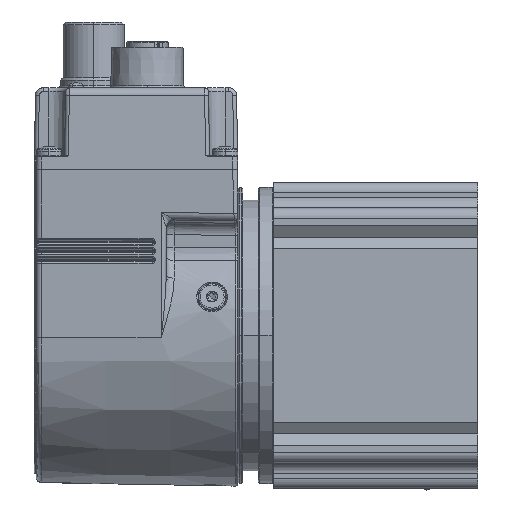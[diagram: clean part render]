
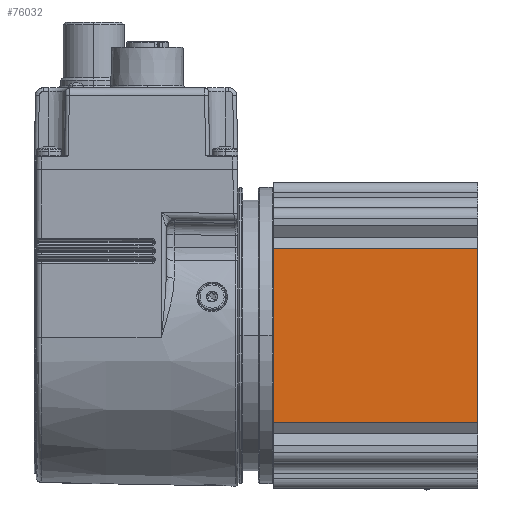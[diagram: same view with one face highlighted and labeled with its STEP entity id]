
A CAD part, front view. The second image highlights one B-rep face of the part: STEP entity #76032.
In plain terms, the highlighted planar face has unit normal (0, -1, 0).
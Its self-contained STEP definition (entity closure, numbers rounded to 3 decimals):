
#72586=DIRECTION('',(1.,0.,0.));
#72587=VECTOR('',#72586,34.172);
#72588=CARTESIAN_POINT('',(-17.086,-30.,0.));
#72589=LINE('',#72588,#72587);
#73632=DIRECTION('',(1.,0.,0.));
#73633=VECTOR('',#73632,34.172);
#73634=CARTESIAN_POINT('',(-17.086,-30.,40.));
#73635=LINE('',#73634,#73633);
#73994=DIRECTION('',(0.,0.,1.));
#73995=VECTOR('',#73994,40.);
#73996=CARTESIAN_POINT('',(-17.086,-30.,0.));
#73997=LINE('',#73996,#73995);
#74001=DIRECTION('',(0.,0.,1.));
#74002=VECTOR('',#74001,40.);
#74003=CARTESIAN_POINT('',(17.086,-30.,0.));
#74004=LINE('',#74003,#74002);
#74852=CARTESIAN_POINT('',(-17.086,-30.,0.));
#74853=VERTEX_POINT('',#74852);
#74854=CARTESIAN_POINT('',(17.086,-30.,0.));
#74855=VERTEX_POINT('',#74854);
#74984=CARTESIAN_POINT('',(-17.086,-30.,40.));
#74985=VERTEX_POINT('',#74984);
#74986=CARTESIAN_POINT('',(17.086,-30.,40.));
#74987=VERTEX_POINT('',#74986);
#76020=CARTESIAN_POINT('',(-17.086,-30.,0.));
#76021=DIRECTION('',(0.,-1.,0.));
#76022=DIRECTION('',(1.,0.,0.));
#76023=AXIS2_PLACEMENT_3D('',#76020,#76021,#76022);
#76024=PLANE('',#76023);
#76025=ORIENTED_EDGE('',*,*,#75268,.F.);
#76026=ORIENTED_EDGE('',*,*,#76015,.T.);
#76027=ORIENTED_EDGE('',*,*,#75651,.T.);
#76029=ORIENTED_EDGE('',*,*,#76028,.F.);
#76030=EDGE_LOOP('',(#76025,#76026,#76027,#76029));
#76031=FACE_OUTER_BOUND('',#76030,.F.);
#75268=EDGE_CURVE('',#74853,#74855,#72589,.T.);
#75651=EDGE_CURVE('',#74985,#74987,#73635,.T.);
#76015=EDGE_CURVE('',#74853,#74985,#73997,.T.);
#76028=EDGE_CURVE('',#74855,#74987,#74004,.T.);
#76032=ADVANCED_FACE('',(#76031),#76024,.T.);
